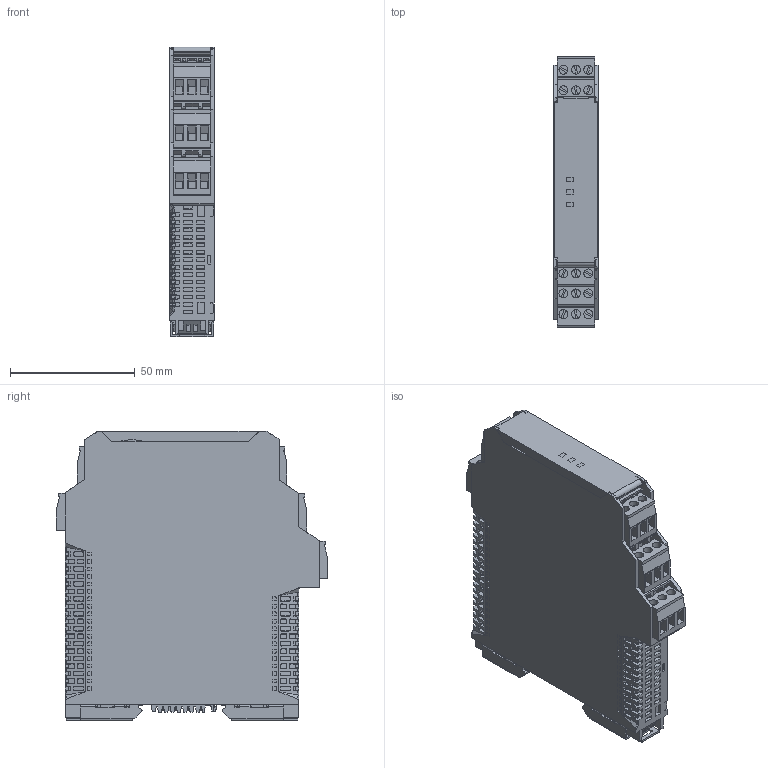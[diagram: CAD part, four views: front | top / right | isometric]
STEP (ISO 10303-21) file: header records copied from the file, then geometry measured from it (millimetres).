
FILE_DESCRIPTION((''),'2;1');
FILE_NAME('D:\ТЗ\Для отдела рекламы\БИГ\БИГ-3-1-22_АА.stp','2024-07-08T10:31:38',('A.V.Dzhibladze'),(''),'Autodesk Inventor 2012','Autodesk Inventor 2012','');
FILE_SCHEMA(('AUTOMOTIVE_DESIGN { 1 2 10303 214 0 1 1 1 }'));
Length unit declared in the file: millimetre
Products named in the file (1): БИГ-3-1-22_АА
Bounding box: 17.71 x 108.86 x 116.35 mm (x, y, z)
Volume: 181222.4 mm3; surface area: 41965.7 mm2
Topology: 5 solids, 7 shells, 3380 faces, 9440 edges, 6223 vertices
Faces by surface type: plane 2623, cylinder 689, bspline 51, sphere 7, torus 6, cone 4
Full cylindrical faces by diameter (mm): 2 x1, 2.05 x2, 3.6 x15
Entity records: 112545 total; most frequent: CARTESIAN_POINT 22692, ORIENTED_EDGE 18776, DIRECTION 17193, EDGE_CURVE 9388, VECTOR 7637, LINE 7637, VERTEX_POINT 6201, AXIS2_PLACEMENT_3D 4778
